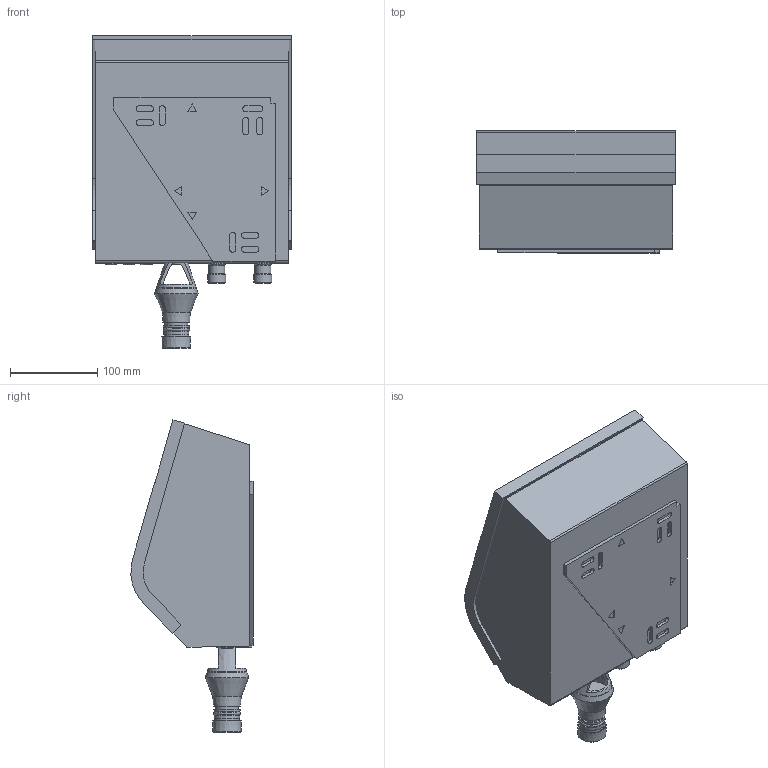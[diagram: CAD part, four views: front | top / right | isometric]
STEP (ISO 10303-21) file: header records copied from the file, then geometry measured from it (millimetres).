
FILE_DESCRIPTION(/* description */ (''),/* implementation_level */ '2;1');
FILE_NAME(/* name */ '\\DATASERVER\data\Flamco\3D-Modellen\Inventor\Flexfiller\Flexfiller Direct\20100_flexfiller-direct_g4.stp',/* time_stamp */ '2021-11-08T16:26:59+01:00',/* author */ ('kasius'),/* organization */ (''),/* preprocessor_version */ 'ST-DEVELOPER v17',/* originating_system */ 'Autodesk Inventor 2018',/* authorisation */ '');
FILE_SCHEMA (('AUTOMOTIVE_DESIGN { 1 0 10303 214 3 1 1 }'));
Length unit declared in the file: millimetre
Products named in the file (1): 20100_flexfiller-direct_g4 v2
Bounding box: 228 x 140.17 x 358.73 mm (x, y, z)
Volume: 6673443.6 mm3; surface area: 413422.8 mm2
Topology: 6 solids, 6 shells, 197 faces, 521 edges, 366 vertices
Faces by surface type: plane 112, cylinder 57, cone 23, torus 5
Full cylindrical faces by diameter (mm): 6.303 x3, 10.5 x6, 13.8 x4, 15.081 x2, 18.585 x2, 20.657 x2, 22.187 x1, 22.988 x2, 26.093 x2, 26.189 x1, 27.851 x1, 27.931 x2, 28.281 x1, 28.99 x1, 33.201 x1
Entity records: 6400 total; most frequent: DIRECTION 1150, CARTESIAN_POINT 1101, ORIENTED_EDGE 1042, EDGE_CURVE 521, AXIS2_PLACEMENT_3D 439, VERTEX_POINT 366, LINE 272, VECTOR 272
